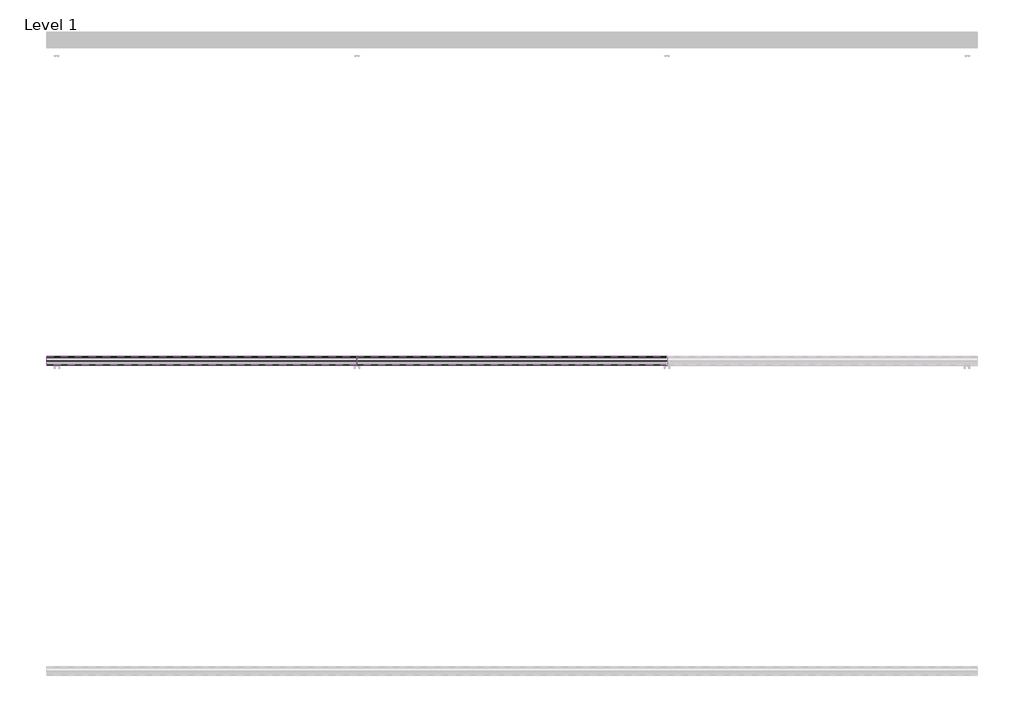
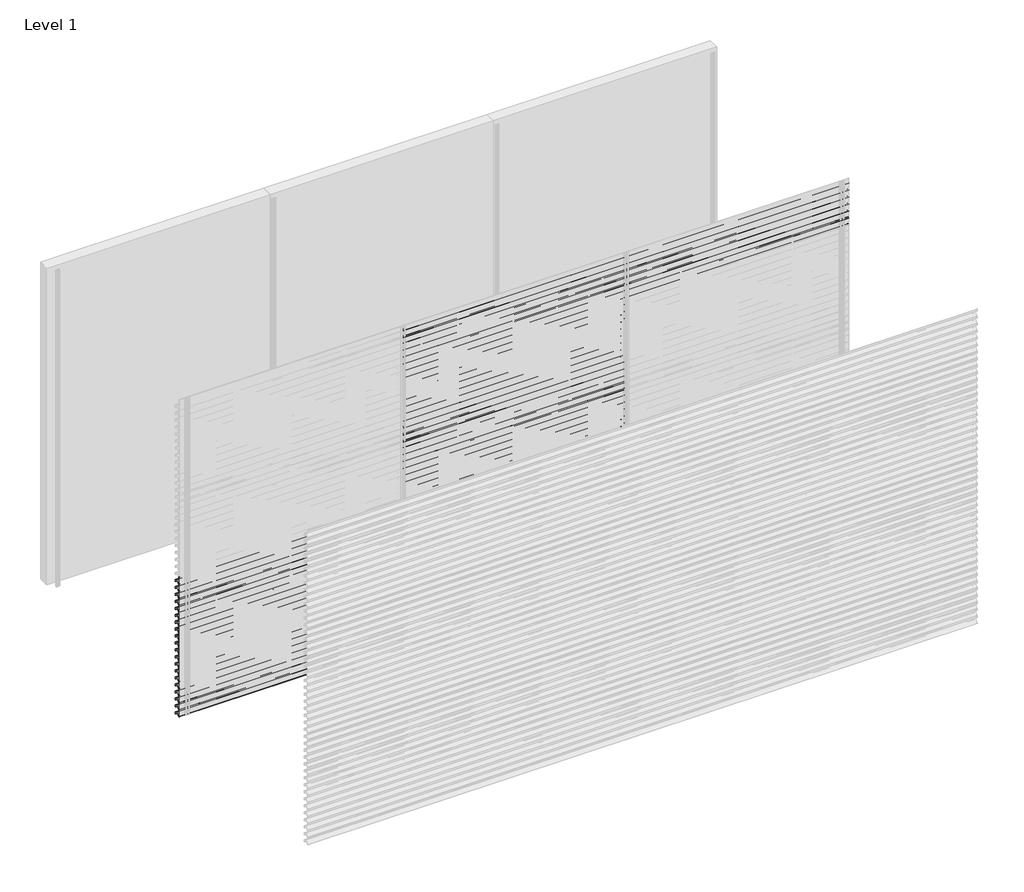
# One storey, part 24 of 27: 71 proxies.
"""IFC4 building model written with IfcOpenShell, lengths in millimetres."""

from ifc_helpers import new_model, si_unit, frame, origin, place, context, project, spatial, polyline, outline, extrude, element, save

model = new_model("IFC4")

# Units and contexts
model_context = context("Model", 3, world=origin())
ifc_project = project(units=[si_unit("LENGTHUNIT", "METRE", prefix="MILLI")], contexts=[model_context])

# Site, building, storey
site = spatial("IfcSite", under=ifc_project)
building = spatial("IfcBuilding", under=site)
storey = spatial("IfcBuildingStorey", under=building, Name="Level 1", Elevation=0.0)

# Proxies
placement = place(None, origin())
element("IfcBuildingElementProxy", 1, Name="Wall Sweeps", at=placement, inside=storey, context=model_context, shape_type="SweptSolid", body=[
    extrude(outline(polyline([(-5943.0, 1263.2), (-5943.0, 1243.5), (-5944.25, 1244.5866084), (-5944.25, 1262.4872415), (-5963.0322086, 1275.6010889), (-5995.1332975, 1243.5), (-5996.0525363, 1244.4192388), (-5964.1148087, 1276.3569665), (-5998.0, 1300.0158044), (-5998.0, 1320.0), (-5996.75, 1320.0), (-5996.75, 1300.7285629), (-5943.0, 1263.2)])), frame((0.0, 0.0, 0.0), z_axis=(1.0, 0.0, 0.0), x_axis=(0.0, 1.0, 0.0)), (0.0, 0.0, 1.0), 2000.0),
])
element("IfcBuildingElementProxy", 2, Name="Wall Sweeps", at=placement, inside=storey, context=model_context, shape_type="SweptSolid", body=[
    extrude(outline(polyline([(-5943.0, 1197.2), (-5943.0, 1177.5), (-5944.25, 1178.5866084), (-5944.25, 1196.4872415), (-5963.0322086, 1209.6010889), (-5995.1332975, 1177.5), (-5996.0525363, 1178.4192388), (-5964.1148087, 1210.3569665), (-5998.0, 1234.0158044), (-5998.0, 1254.0), (-5996.75, 1254.0), (-5996.75, 1234.7285629), (-5943.0, 1197.2)])), frame((0.0, 0.0, 0.0), z_axis=(1.0, 0.0, 0.0), x_axis=(0.0, 1.0, 0.0)), (0.0, 0.0, 1.0), 2000.0),
])
element("IfcBuildingElementProxy", 3, Name="Wall Sweeps", at=placement, inside=storey, context=model_context, shape_type="SweptSolid", body=[
    extrude(outline(polyline([(-5943.0, 1131.2), (-5943.0, 1111.5), (-5944.25, 1112.5866084), (-5944.25, 1130.4872415), (-5963.0322086, 1143.6010889), (-5995.1332975, 1111.5), (-5996.0525363, 1112.4192388), (-5964.1148087, 1144.3569665), (-5998.0, 1168.0158044), (-5998.0, 1188.0), (-5996.75, 1188.0), (-5996.75, 1168.7285629), (-5943.0, 1131.2)])), frame((0.0, 0.0, 0.0), z_axis=(1.0, 0.0, 0.0), x_axis=(0.0, 1.0, 0.0)), (0.0, 0.0, 1.0), 2000.0),
])
element("IfcBuildingElementProxy", 4, Name="Wall Sweeps", at=placement, inside=storey, context=model_context, shape_type="SweptSolid", body=[
    extrude(outline(polyline([(-5943.0, 1065.2), (-5943.0, 1045.5), (-5944.25, 1046.5866084), (-5944.25, 1064.4872415), (-5963.0322086, 1077.6010889), (-5995.1332975, 1045.5), (-5996.0525363, 1046.4192388), (-5964.1148087, 1078.3569665), (-5998.0, 1102.0158044), (-5998.0, 1122.0), (-5996.75, 1122.0), (-5996.75, 1102.7285629), (-5943.0, 1065.2)])), frame((0.0, 0.0, 0.0), z_axis=(1.0, 0.0, 0.0), x_axis=(0.0, 1.0, 0.0)), (0.0, 0.0, 1.0), 2000.0),
])
element("IfcBuildingElementProxy", 5, Name="Wall Sweeps", at=placement, inside=storey, context=model_context, shape_type="SweptSolid", body=[
    extrude(outline(polyline([(-5943.0, 999.2), (-5943.0, 979.5), (-5944.25, 980.5866084), (-5944.25, 998.4872415), (-5963.0322086, 1011.6010889), (-5995.1332975, 979.5), (-5996.0525363, 980.4192388), (-5964.1148087, 1012.3569665), (-5998.0, 1036.0158044), (-5998.0, 1056.0), (-5996.75, 1056.0), (-5996.75, 1036.7285629), (-5943.0, 999.2)])), frame((0.0, 0.0, 0.0), z_axis=(1.0, 0.0, 0.0), x_axis=(0.0, 1.0, 0.0)), (0.0, 0.0, 1.0), 2000.0),
])
element("IfcBuildingElementProxy", 6, Name="Wall Sweeps", at=placement, inside=storey, context=model_context, shape_type="SweptSolid", body=[
    extrude(outline(polyline([(-5943.0, 933.2), (-5943.0, 913.5), (-5944.25, 914.5866084), (-5944.25, 932.4872415), (-5963.0322086, 945.6010889), (-5995.1332975, 913.5), (-5996.0525363, 914.4192388), (-5964.1148087, 946.3569665), (-5998.0, 970.0158044), (-5998.0, 990.0), (-5996.75, 990.0), (-5996.75, 970.7285629), (-5943.0, 933.2)])), frame((0.0, 0.0, 0.0), z_axis=(1.0, 0.0, 0.0), x_axis=(0.0, 1.0, 0.0)), (0.0, 0.0, 1.0), 2000.0),
])
element("IfcBuildingElementProxy", 7, Name="Wall Sweeps", at=placement, inside=storey, context=model_context, shape_type="SweptSolid", body=[
    extrude(outline(polyline([(-5943.0, 867.2), (-5943.0, 847.5), (-5944.25, 848.5866084), (-5944.25, 866.4872415), (-5963.0322086, 879.6010889), (-5995.1332975, 847.5), (-5996.0525363, 848.4192388), (-5964.1148087, 880.3569665), (-5998.0, 904.0158044), (-5998.0, 924.0), (-5996.75, 924.0), (-5996.75, 904.7285629), (-5943.0, 867.2)])), frame((0.0, 0.0, 0.0), z_axis=(1.0, 0.0, 0.0), x_axis=(0.0, 1.0, 0.0)), (0.0, 0.0, 1.0), 2000.0),
])
element("IfcBuildingElementProxy", 8, Name="Wall Sweeps", at=placement, inside=storey, context=model_context, shape_type="SweptSolid", body=[
    extrude(outline(polyline([(-5943.0, 801.2), (-5943.0, 781.5), (-5944.25, 782.5866084), (-5944.25, 800.4872415), (-5963.0322086, 813.6010889), (-5995.1332975, 781.5), (-5996.0525363, 782.4192388), (-5964.1148087, 814.3569665), (-5998.0, 838.0158044), (-5998.0, 858.0), (-5996.75, 858.0), (-5996.75, 838.7285629), (-5943.0, 801.2)])), frame((0.0, 0.0, 0.0), z_axis=(1.0, 0.0, 0.0), x_axis=(0.0, 1.0, 0.0)), (0.0, 0.0, 1.0), 2000.0),
])
element("IfcBuildingElementProxy", 9, Name="Wall Sweeps", at=placement, inside=storey, context=model_context, shape_type="SweptSolid", body=[
    extrude(outline(polyline([(-5943.0, 735.2), (-5943.0, 715.5), (-5944.25, 716.5866084), (-5944.25, 734.4872415), (-5963.0322086, 747.6010889), (-5995.1332975, 715.5), (-5996.0525363, 716.4192388), (-5964.1148087, 748.3569665), (-5998.0, 772.0158044), (-5998.0, 792.0), (-5996.75, 792.0), (-5996.75, 772.7285629), (-5943.0, 735.2)])), frame((0.0, 0.0, 0.0), z_axis=(1.0, 0.0, 0.0), x_axis=(0.0, 1.0, 0.0)), (0.0, 0.0, 1.0), 2000.0),
])
element("IfcBuildingElementProxy", 10, Name="Wall Sweeps", at=placement, inside=storey, context=model_context, shape_type="SweptSolid", body=[
    extrude(outline(polyline([(-5943.0, 669.2), (-5943.0, 649.5), (-5944.25, 650.5866084), (-5944.25, 668.4872415), (-5963.0322086, 681.6010889), (-5995.1332975, 649.5), (-5996.0525363, 650.4192388), (-5964.1148087, 682.3569665), (-5998.0, 706.0158044), (-5998.0, 726.0), (-5996.75, 726.0), (-5996.75, 706.7285629), (-5943.0, 669.2)])), frame((0.0, 0.0, 0.0), z_axis=(1.0, 0.0, 0.0), x_axis=(0.0, 1.0, 0.0)), (0.0, 0.0, 1.0), 2000.0),
])
element("IfcBuildingElementProxy", 11, Name="Wall Sweeps", at=placement, inside=storey, context=model_context, shape_type="SweptSolid", body=[
    extrude(outline(polyline([(-5943.0, 603.2), (-5943.0, 583.5), (-5944.25, 584.5866084), (-5944.25, 602.4872415), (-5963.0322086, 615.6010889), (-5995.1332975, 583.5), (-5996.0525363, 584.4192388), (-5964.1148087, 616.3569665), (-5998.0, 640.0158044), (-5998.0, 660.0), (-5996.75, 660.0), (-5996.75, 640.7285629), (-5943.0, 603.2)])), frame((0.0, 0.0, 0.0), z_axis=(1.0, 0.0, 0.0), x_axis=(0.0, 1.0, 0.0)), (0.0, 0.0, 1.0), 2000.0),
])
element("IfcBuildingElementProxy", 12, Name="Wall Sweeps", at=placement, inside=storey, context=model_context, shape_type="SweptSolid", body=[
    extrude(outline(polyline([(-5943.0, 537.2), (-5943.0, 517.5), (-5944.25, 518.5866084), (-5944.25, 536.4872415), (-5963.0322086, 549.6010889), (-5995.1332975, 517.5), (-5996.0525363, 518.4192388), (-5964.1148087, 550.3569665), (-5998.0, 574.0158044), (-5998.0, 594.0), (-5996.75, 594.0), (-5996.75, 574.7285629), (-5943.0, 537.2)])), frame((0.0, 0.0, 0.0), z_axis=(1.0, 0.0, 0.0), x_axis=(0.0, 1.0, 0.0)), (0.0, 0.0, 1.0), 2000.0),
])
element("IfcBuildingElementProxy", 13, Name="Wall Sweeps", at=placement, inside=storey, context=model_context, shape_type="SweptSolid", body=[
    extrude(outline(polyline([(-5943.0, 471.2), (-5943.0, 451.5), (-5944.25, 452.5866084), (-5944.25, 470.4872415), (-5963.0322086, 483.6010889), (-5995.1332975, 451.5), (-5996.0525363, 452.4192388), (-5964.1148087, 484.3569665), (-5998.0, 508.0158044), (-5998.0, 528.0), (-5996.75, 528.0), (-5996.75, 508.7285629), (-5943.0, 471.2)])), frame((0.0, 0.0, 0.0), z_axis=(1.0, 0.0, 0.0), x_axis=(0.0, 1.0, 0.0)), (0.0, 0.0, 1.0), 2000.0),
])
element("IfcBuildingElementProxy", 14, Name="Wall Sweeps", at=placement, inside=storey, context=model_context, shape_type="SweptSolid", body=[
    extrude(outline(polyline([(-5943.0, 405.2), (-5943.0, 385.5), (-5944.25, 386.5866084), (-5944.25, 404.4872415), (-5963.0322086, 417.6010889), (-5995.1332975, 385.5), (-5996.0525363, 386.4192388), (-5964.1148087, 418.3569665), (-5998.0, 442.0158044), (-5998.0, 462.0), (-5996.75, 462.0), (-5996.75, 442.7285629), (-5943.0, 405.2)])), frame((0.0, 0.0, 0.0), z_axis=(1.0, 0.0, 0.0), x_axis=(0.0, 1.0, 0.0)), (0.0, 0.0, 1.0), 2000.0),
])
element("IfcBuildingElementProxy", 15, Name="Wall Sweeps", at=placement, inside=storey, context=model_context, shape_type="SweptSolid", body=[
    extrude(outline(polyline([(-5943.0, 339.2), (-5943.0, 319.5), (-5944.25, 320.5866084), (-5944.25, 338.4872415), (-5963.0322086, 351.6010889), (-5995.1332975, 319.5), (-5996.0525363, 320.4192388), (-5964.1148087, 352.3569665), (-5998.0, 376.0158044), (-5998.0, 396.0), (-5996.75, 396.0), (-5996.75, 376.7285629), (-5943.0, 339.2)])), frame((0.0, 0.0, 0.0), z_axis=(1.0, 0.0, 0.0), x_axis=(0.0, 1.0, 0.0)), (0.0, 0.0, 1.0), 2000.0),
])
element("IfcBuildingElementProxy", 16, Name="Wall Sweeps", at=placement, inside=storey, context=model_context, shape_type="SweptSolid", body=[
    extrude(outline(polyline([(-5943.0, 273.2), (-5943.0, 253.5), (-5944.25, 254.5866084), (-5944.25, 272.4872415), (-5963.0322086, 285.6010889), (-5995.1332975, 253.5), (-5996.0525363, 254.4192388), (-5964.1148087, 286.3569665), (-5998.0, 310.0158044), (-5998.0, 330.0), (-5996.75, 330.0), (-5996.75, 310.7285629), (-5943.0, 273.2)])), frame((0.0, 0.0, 0.0), z_axis=(1.0, 0.0, 0.0), x_axis=(0.0, 1.0, 0.0)), (0.0, 0.0, 1.0), 2000.0),
])
element("IfcBuildingElementProxy", 17, Name="Wall Sweeps", at=placement, inside=storey, context=model_context, shape_type="SweptSolid", body=[
    extrude(outline(polyline([(-5943.0, 207.2), (-5943.0, 187.5), (-5944.25, 188.5866084), (-5944.25, 206.4872415), (-5963.0322086, 219.6010889), (-5995.1332975, 187.5), (-5996.0525363, 188.4192388), (-5964.1148087, 220.3569665), (-5998.0, 244.0158044), (-5998.0, 264.0), (-5996.75, 264.0), (-5996.75, 244.7285629), (-5943.0, 207.2)])), frame((0.0, 0.0, 0.0), z_axis=(1.0, 0.0, 0.0), x_axis=(0.0, 1.0, 0.0)), (0.0, 0.0, 1.0), 2000.0),
])
element("IfcBuildingElementProxy", 18, Name="Wall Sweeps", at=placement, inside=storey, context=model_context, shape_type="SweptSolid", body=[
    extrude(outline(polyline([(-5943.0, 141.2), (-5943.0, 121.5), (-5944.25, 122.5866084), (-5944.25, 140.4872415), (-5963.0322086, 153.6010889), (-5995.1332975, 121.5), (-5996.0525363, 122.4192388), (-5964.1148087, 154.3569665), (-5998.0, 178.0158044), (-5998.0, 198.0), (-5996.75, 198.0), (-5996.75, 178.7285629), (-5943.0, 141.2)])), frame((0.0, 0.0, 0.0), z_axis=(1.0, 0.0, 0.0), x_axis=(0.0, 1.0, 0.0)), (0.0, 0.0, 1.0), 2000.0),
])
element("IfcBuildingElementProxy", 19, Name="Wall Sweeps", at=placement, inside=storey, context=model_context, shape_type="SweptSolid", body=[
    extrude(outline(polyline([(-5943.0, 75.2), (-5943.0, 55.5), (-5944.25, 56.5866084), (-5944.25, 74.4872415), (-5963.0322086, 87.6010889), (-5995.1332975, 55.5), (-5996.0525363, 56.4192388), (-5964.1148087, 88.3569665), (-5998.0, 112.0158044), (-5998.0, 132.0), (-5996.75, 132.0), (-5996.75, 112.7285629), (-5943.0, 75.2)])), frame((0.0, 0.0, 0.0), z_axis=(1.0, 0.0, 0.0), x_axis=(0.0, 1.0, 0.0)), (0.0, 0.0, 1.0), 2000.0),
])
element("IfcBuildingElementProxy", 20, Name="Wall Sweeps", at=placement, inside=storey, context=model_context, shape_type="SweptSolid", body=[
    extrude(outline(polyline([(-5943.0, 9.2), (-5943.0, -10.5), (-5944.25, -9.4133916), (-5944.25, 8.4872415), (-5963.0322086, 21.6010889), (-5995.1332975, -10.5), (-5996.0525363, -9.5807612), (-5964.1148087, 22.3569665), (-5998.0, 46.0158044), (-5998.0, 66.0), (-5996.75, 66.0), (-5996.75, 46.7285629), (-5943.0, 9.2)])), frame((0.0, 0.0, 0.0), z_axis=(1.0, 0.0, 0.0), x_axis=(0.0, 1.0, 0.0)), (0.0, 0.0, 1.0), 2000.0),
])
element("IfcBuildingElementProxy", 21, Name="Wall Sweeps", at=placement, inside=storey, context=model_context, shape_type="SweptSolid", body=[
    extrude(outline(polyline([(-5943.0, 2913.2), (-5943.0, 2893.5), (-5944.25, 2894.5866084), (-5944.25, 2912.4872415), (-5963.0322086, 2925.6010889), (-5995.1332975, 2893.5), (-5996.0525363, 2894.4192388), (-5964.1148087, 2926.3569665), (-5998.0, 2950.0158044), (-5998.0, 2970.0), (-5996.75, 2970.0), (-5996.75, 2950.7285629), (-5943.0, 2913.2)])), frame((2000.0, 0.0, 0.0), z_axis=(1.0, 0.0, 0.0), x_axis=(0.0, 1.0, 0.0)), (0.0, 0.0, 1.0), 2000.0),
])
element("IfcBuildingElementProxy", 22, Name="Wall Sweeps", at=placement, inside=storey, context=model_context, shape_type="SweptSolid", body=[
    extrude(outline(polyline([(-5943.0, 2847.2), (-5943.0, 2827.5), (-5944.25, 2828.5866084), (-5944.25, 2846.4872415), (-5963.0322086, 2859.6010889), (-5995.1332975, 2827.5), (-5996.0525363, 2828.4192388), (-5964.1148087, 2860.3569665), (-5998.0, 2884.0158044), (-5998.0, 2904.0), (-5996.75, 2904.0), (-5996.75, 2884.7285629), (-5943.0, 2847.2)])), frame((2000.0, 0.0, 0.0), z_axis=(1.0, 0.0, 0.0), x_axis=(0.0, 1.0, 0.0)), (0.0, 0.0, 1.0), 2000.0),
])
element("IfcBuildingElementProxy", 23, Name="Wall Sweeps", at=placement, inside=storey, context=model_context, shape_type="SweptSolid", body=[
    extrude(outline(polyline([(-5943.0, 2781.2), (-5943.0, 2761.5), (-5944.25, 2762.5866084), (-5944.25, 2780.4872415), (-5963.0322086, 2793.6010889), (-5995.1332975, 2761.5), (-5996.0525363, 2762.4192388), (-5964.1148087, 2794.3569665), (-5998.0, 2818.0158044), (-5998.0, 2838.0), (-5996.75, 2838.0), (-5996.75, 2818.7285629), (-5943.0, 2781.2)])), frame((2000.0, 0.0, 0.0), z_axis=(1.0, 0.0, 0.0), x_axis=(0.0, 1.0, 0.0)), (0.0, 0.0, 1.0), 2000.0),
])
element("IfcBuildingElementProxy", 24, Name="Wall Sweeps", at=placement, inside=storey, context=model_context, shape_type="SweptSolid", body=[
    extrude(outline(polyline([(-5943.0, 2715.2), (-5943.0, 2695.5), (-5944.25, 2696.5866084), (-5944.25, 2714.4872415), (-5963.0322086, 2727.6010889), (-5995.1332975, 2695.5), (-5996.0525363, 2696.4192388), (-5964.1148087, 2728.3569665), (-5998.0, 2752.0158044), (-5998.0, 2772.0), (-5996.75, 2772.0), (-5996.75, 2752.7285629), (-5943.0, 2715.2)])), frame((2000.0, 0.0, 0.0), z_axis=(1.0, 0.0, 0.0), x_axis=(0.0, 1.0, 0.0)), (0.0, 0.0, 1.0), 2000.0),
])
element("IfcBuildingElementProxy", 25, Name="Wall Sweeps", at=placement, inside=storey, context=model_context, shape_type="SweptSolid", body=[
    extrude(outline(polyline([(-5943.0, 2649.2), (-5943.0, 2629.5), (-5944.25, 2630.5866084), (-5944.25, 2648.4872415), (-5963.0322086, 2661.6010889), (-5995.1332975, 2629.5), (-5996.0525363, 2630.4192388), (-5964.1148087, 2662.3569665), (-5998.0, 2686.0158044), (-5998.0, 2706.0), (-5996.75, 2706.0), (-5996.75, 2686.7285629), (-5943.0, 2649.2)])), frame((2000.0, 0.0, 0.0), z_axis=(1.0, 0.0, 0.0), x_axis=(0.0, 1.0, 0.0)), (0.0, 0.0, 1.0), 2000.0),
])
element("IfcBuildingElementProxy", 26, Name="Wall Sweeps", at=placement, inside=storey, context=model_context, shape_type="SweptSolid", body=[
    extrude(outline(polyline([(-5943.0, 2583.2), (-5943.0, 2563.5), (-5944.25, 2564.5866084), (-5944.25, 2582.4872415), (-5963.0322086, 2595.6010889), (-5995.1332975, 2563.5), (-5996.0525363, 2564.4192388), (-5964.1148087, 2596.3569665), (-5998.0, 2620.0158044), (-5998.0, 2640.0), (-5996.75, 2640.0), (-5996.75, 2620.7285629), (-5943.0, 2583.2)])), frame((2000.0, 0.0, 0.0), z_axis=(1.0, 0.0, 0.0), x_axis=(0.0, 1.0, 0.0)), (0.0, 0.0, 1.0), 2000.0),
])
element("IfcBuildingElementProxy", 27, Name="Wall Sweeps", at=placement, inside=storey, context=model_context, shape_type="SweptSolid", body=[
    extrude(outline(polyline([(-5943.0, 2517.2), (-5943.0, 2497.5), (-5944.25, 2498.5866084), (-5944.25, 2516.4872415), (-5963.0322086, 2529.6010889), (-5995.1332975, 2497.5), (-5996.0525363, 2498.4192388), (-5964.1148087, 2530.3569665), (-5998.0, 2554.0158044), (-5998.0, 2574.0), (-5996.75, 2574.0), (-5996.75, 2554.7285629), (-5943.0, 2517.2)])), frame((2000.0, 0.0, 0.0), z_axis=(1.0, 0.0, 0.0), x_axis=(0.0, 1.0, 0.0)), (0.0, 0.0, 1.0), 2000.0),
])
element("IfcBuildingElementProxy", 28, Name="Wall Sweeps", at=placement, inside=storey, context=model_context, shape_type="SweptSolid", body=[
    extrude(outline(polyline([(-5943.0, 2451.2), (-5943.0, 2431.5), (-5944.25, 2432.5866084), (-5944.25, 2450.4872415), (-5963.0322086, 2463.6010889), (-5995.1332975, 2431.5), (-5996.0525363, 2432.4192388), (-5964.1148087, 2464.3569665), (-5998.0, 2488.0158044), (-5998.0, 2508.0), (-5996.75, 2508.0), (-5996.75, 2488.7285629), (-5943.0, 2451.2)])), frame((2000.0, 0.0, 0.0), z_axis=(1.0, 0.0, 0.0), x_axis=(0.0, 1.0, 0.0)), (0.0, 0.0, 1.0), 2000.0),
])
element("IfcBuildingElementProxy", 29, Name="Wall Sweeps", at=placement, inside=storey, context=model_context, shape_type="SweptSolid", body=[
    extrude(outline(polyline([(-5943.0, 2385.2), (-5943.0, 2365.5), (-5944.25, 2366.5866084), (-5944.25, 2384.4872415), (-5963.0322086, 2397.6010889), (-5995.1332975, 2365.5), (-5996.0525363, 2366.4192388), (-5964.1148087, 2398.3569665), (-5998.0, 2422.0158044), (-5998.0, 2442.0), (-5996.75, 2442.0), (-5996.75, 2422.7285629), (-5943.0, 2385.2)])), frame((2000.0, 0.0, 0.0), z_axis=(1.0, 0.0, 0.0), x_axis=(0.0, 1.0, 0.0)), (0.0, 0.0, 1.0), 2000.0),
])
element("IfcBuildingElementProxy", 30, Name="Wall Sweeps", at=placement, inside=storey, context=model_context, shape_type="SweptSolid", body=[
    extrude(outline(polyline([(-5943.0, 2319.2), (-5943.0, 2299.5), (-5944.25, 2300.5866084), (-5944.25, 2318.4872415), (-5963.0322086, 2331.6010889), (-5995.1332975, 2299.5), (-5996.0525363, 2300.4192388), (-5964.1148087, 2332.3569665), (-5998.0, 2356.0158044), (-5998.0, 2376.0), (-5996.75, 2376.0), (-5996.75, 2356.7285629), (-5943.0, 2319.2)])), frame((2000.0, 0.0, 0.0), z_axis=(1.0, 0.0, 0.0), x_axis=(0.0, 1.0, 0.0)), (0.0, 0.0, 1.0), 2000.0),
])
element("IfcBuildingElementProxy", 31, Name="Wall Sweeps", at=placement, inside=storey, context=model_context, shape_type="SweptSolid", body=[
    extrude(outline(polyline([(-5943.0, 2253.2), (-5943.0, 2233.5), (-5944.25, 2234.5866084), (-5944.25, 2252.4872415), (-5963.0322086, 2265.6010889), (-5995.1332975, 2233.5), (-5996.0525363, 2234.4192388), (-5964.1148087, 2266.3569665), (-5998.0, 2290.0158044), (-5998.0, 2310.0), (-5996.75, 2310.0), (-5996.75, 2290.7285629), (-5943.0, 2253.2)])), frame((2000.0, 0.0, 0.0), z_axis=(1.0, 0.0, 0.0), x_axis=(0.0, 1.0, 0.0)), (0.0, 0.0, 1.0), 2000.0),
])
element("IfcBuildingElementProxy", 32, Name="Wall Sweeps", at=placement, inside=storey, context=model_context, shape_type="SweptSolid", body=[
    extrude(outline(polyline([(-5943.0, 2187.2), (-5943.0, 2167.5), (-5944.25, 2168.5866084), (-5944.25, 2186.4872415), (-5963.0322086, 2199.6010889), (-5995.1332975, 2167.5), (-5996.0525363, 2168.4192388), (-5964.1148087, 2200.3569665), (-5998.0, 2224.0158044), (-5998.0, 2244.0), (-5996.75, 2244.0), (-5996.75, 2224.7285629), (-5943.0, 2187.2)])), frame((2000.0, 0.0, 0.0), z_axis=(1.0, 0.0, 0.0), x_axis=(0.0, 1.0, 0.0)), (0.0, 0.0, 1.0), 2000.0),
])
element("IfcBuildingElementProxy", 33, Name="Wall Sweeps", at=placement, inside=storey, context=model_context, shape_type="SweptSolid", body=[
    extrude(outline(polyline([(-5943.0, 2121.2), (-5943.0, 2101.5), (-5944.25, 2102.5866084), (-5944.25, 2120.4872415), (-5963.0322086, 2133.6010889), (-5995.1332975, 2101.5), (-5996.0525363, 2102.4192388), (-5964.1148087, 2134.3569665), (-5998.0, 2158.0158044), (-5998.0, 2178.0), (-5996.75, 2178.0), (-5996.75, 2158.7285629), (-5943.0, 2121.2)])), frame((2000.0, 0.0, 0.0), z_axis=(1.0, 0.0, 0.0), x_axis=(0.0, 1.0, 0.0)), (0.0, 0.0, 1.0), 2000.0),
])
element("IfcBuildingElementProxy", 34, Name="Wall Sweeps", at=placement, inside=storey, context=model_context, shape_type="SweptSolid", body=[
    extrude(outline(polyline([(-5943.0, 2055.2), (-5943.0, 2035.5), (-5944.25, 2036.5866084), (-5944.25, 2054.4872415), (-5963.0322086, 2067.6010889), (-5995.1332975, 2035.5), (-5996.0525363, 2036.4192388), (-5964.1148087, 2068.3569665), (-5998.0, 2092.0158044), (-5998.0, 2112.0), (-5996.75, 2112.0), (-5996.75, 2092.7285629), (-5943.0, 2055.2)])), frame((2000.0, 0.0, 0.0), z_axis=(1.0, 0.0, 0.0), x_axis=(0.0, 1.0, 0.0)), (0.0, 0.0, 1.0), 2000.0),
])
element("IfcBuildingElementProxy", 35, Name="Wall Sweeps", at=placement, inside=storey, context=model_context, shape_type="SweptSolid", body=[
    extrude(outline(polyline([(-5943.0, 1989.2), (-5943.0, 1969.5), (-5944.25, 1970.5866084), (-5944.25, 1988.4872415), (-5963.0322086, 2001.6010889), (-5995.1332975, 1969.5), (-5996.0525363, 1970.4192388), (-5964.1148087, 2002.3569665), (-5998.0, 2026.0158044), (-5998.0, 2046.0), (-5996.75, 2046.0), (-5996.75, 2026.7285629), (-5943.0, 1989.2)])), frame((2000.0, 0.0, 0.0), z_axis=(1.0, 0.0, 0.0), x_axis=(0.0, 1.0, 0.0)), (0.0, 0.0, 1.0), 2000.0),
])
element("IfcBuildingElementProxy", 36, Name="Wall Sweeps", at=placement, inside=storey, context=model_context, shape_type="SweptSolid", body=[
    extrude(outline(polyline([(-5943.0, 1923.2), (-5943.0, 1903.5), (-5944.25, 1904.5866084), (-5944.25, 1922.4872415), (-5963.0322086, 1935.6010889), (-5995.1332975, 1903.5), (-5996.0525363, 1904.4192388), (-5964.1148087, 1936.3569665), (-5998.0, 1960.0158044), (-5998.0, 1980.0), (-5996.75, 1980.0), (-5996.75, 1960.7285629), (-5943.0, 1923.2)])), frame((2000.0, 0.0, 0.0), z_axis=(1.0, 0.0, 0.0), x_axis=(0.0, 1.0, 0.0)), (0.0, 0.0, 1.0), 2000.0),
])
element("IfcBuildingElementProxy", 37, Name="Wall Sweeps", at=placement, inside=storey, context=model_context, shape_type="SweptSolid", body=[
    extrude(outline(polyline([(-5943.0, 1857.2), (-5943.0, 1837.5), (-5944.25, 1838.5866084), (-5944.25, 1856.4872415), (-5963.0322086, 1869.6010889), (-5995.1332975, 1837.5), (-5996.0525363, 1838.4192388), (-5964.1148087, 1870.3569665), (-5998.0, 1894.0158044), (-5998.0, 1914.0), (-5996.75, 1914.0), (-5996.75, 1894.7285629), (-5943.0, 1857.2)])), frame((2000.0, 0.0, 0.0), z_axis=(1.0, 0.0, 0.0), x_axis=(0.0, 1.0, 0.0)), (0.0, 0.0, 1.0), 2000.0),
])
element("IfcBuildingElementProxy", 38, Name="Wall Sweeps", at=placement, inside=storey, context=model_context, shape_type="SweptSolid", body=[
    extrude(outline(polyline([(-5943.0, 1791.2), (-5943.0, 1771.5), (-5944.25, 1772.5866084), (-5944.25, 1790.4872415), (-5963.0322086, 1803.6010889), (-5995.1332975, 1771.5), (-5996.0525363, 1772.4192388), (-5964.1148087, 1804.3569665), (-5998.0, 1828.0158044), (-5998.0, 1848.0), (-5996.75, 1848.0), (-5996.75, 1828.7285629), (-5943.0, 1791.2)])), frame((2000.0, 0.0, 0.0), z_axis=(1.0, 0.0, 0.0), x_axis=(0.0, 1.0, 0.0)), (0.0, 0.0, 1.0), 2000.0),
])
element("IfcBuildingElementProxy", 39, Name="Wall Sweeps", at=placement, inside=storey, context=model_context, shape_type="SweptSolid", body=[
    extrude(outline(polyline([(-5943.0, 1725.2), (-5943.0, 1705.5), (-5944.25, 1706.5866084), (-5944.25, 1724.4872415), (-5963.0322086, 1737.6010889), (-5995.1332975, 1705.5), (-5996.0525363, 1706.4192388), (-5964.1148087, 1738.3569665), (-5998.0, 1762.0158044), (-5998.0, 1782.0), (-5996.75, 1782.0), (-5996.75, 1762.7285629), (-5943.0, 1725.2)])), frame((2000.0, 0.0, 0.0), z_axis=(1.0, 0.0, 0.0), x_axis=(0.0, 1.0, 0.0)), (0.0, 0.0, 1.0), 2000.0),
])
element("IfcBuildingElementProxy", 40, Name="Wall Sweeps", at=placement, inside=storey, context=model_context, shape_type="SweptSolid", body=[
    extrude(outline(polyline([(-5943.0, 1659.2), (-5943.0, 1639.5), (-5944.25, 1640.5866084), (-5944.25, 1658.4872415), (-5963.0322086, 1671.6010889), (-5995.1332975, 1639.5), (-5996.0525363, 1640.4192388), (-5964.1148087, 1672.3569665), (-5998.0, 1696.0158044), (-5998.0, 1716.0), (-5996.75, 1716.0), (-5996.75, 1696.7285629), (-5943.0, 1659.2)])), frame((2000.0, 0.0, 0.0), z_axis=(1.0, 0.0, 0.0), x_axis=(0.0, 1.0, 0.0)), (0.0, 0.0, 1.0), 2000.0),
])
element("IfcBuildingElementProxy", 41, Name="Wall Sweeps", at=placement, inside=storey, context=model_context, shape_type="SweptSolid", body=[
    extrude(outline(polyline([(-5943.0, 1593.2), (-5943.0, 1573.5), (-5944.25, 1574.5866084), (-5944.25, 1592.4872415), (-5963.0322086, 1605.6010889), (-5995.1332975, 1573.5), (-5996.0525363, 1574.4192388), (-5964.1148087, 1606.3569665), (-5998.0, 1630.0158044), (-5998.0, 1650.0), (-5996.75, 1650.0), (-5996.75, 1630.7285629), (-5943.0, 1593.2)])), frame((2000.0, 0.0, 0.0), z_axis=(1.0, 0.0, 0.0), x_axis=(0.0, 1.0, 0.0)), (0.0, 0.0, 1.0), 2000.0),
])
element("IfcBuildingElementProxy", 42, Name="Wall Sweeps", at=placement, inside=storey, context=model_context, shape_type="SweptSolid", body=[
    extrude(outline(polyline([(-5943.0, 1527.2), (-5943.0, 1507.5), (-5944.25, 1508.5866084), (-5944.25, 1526.4872415), (-5963.0322086, 1539.6010889), (-5995.1332975, 1507.5), (-5996.0525363, 1508.4192388), (-5964.1148087, 1540.3569665), (-5998.0, 1564.0158044), (-5998.0, 1584.0), (-5996.75, 1584.0), (-5996.75, 1564.7285629), (-5943.0, 1527.2)])), frame((2000.0, 0.0, 0.0), z_axis=(1.0, 0.0, 0.0), x_axis=(0.0, 1.0, 0.0)), (0.0, 0.0, 1.0), 2000.0),
])
element("IfcBuildingElementProxy", 43, Name="Wall Sweeps", at=placement, inside=storey, context=model_context, shape_type="SweptSolid", body=[
    extrude(outline(polyline([(-5943.0, 1461.2), (-5943.0, 1441.5), (-5944.25, 1442.5866084), (-5944.25, 1460.4872415), (-5963.0322086, 1473.6010889), (-5995.1332975, 1441.5), (-5996.0525363, 1442.4192388), (-5964.1148087, 1474.3569665), (-5998.0, 1498.0158044), (-5998.0, 1518.0), (-5996.75, 1518.0), (-5996.75, 1498.7285629), (-5943.0, 1461.2)])), frame((2000.0, 0.0, 0.0), z_axis=(1.0, 0.0, 0.0), x_axis=(0.0, 1.0, 0.0)), (0.0, 0.0, 1.0), 2000.0),
])
element("IfcBuildingElementProxy", 44, Name="Wall Sweeps", at=placement, inside=storey, context=model_context, shape_type="SweptSolid", body=[
    extrude(outline(polyline([(-5943.0, 1395.2), (-5943.0, 1375.5), (-5944.25, 1376.5866084), (-5944.25, 1394.4872415), (-5963.0322086, 1407.6010889), (-5995.1332975, 1375.5), (-5996.0525363, 1376.4192388), (-5964.1148087, 1408.3569665), (-5998.0, 1432.0158044), (-5998.0, 1452.0), (-5996.75, 1452.0), (-5996.75, 1432.7285629), (-5943.0, 1395.2)])), frame((2000.0, 0.0, 0.0), z_axis=(1.0, 0.0, 0.0), x_axis=(0.0, 1.0, 0.0)), (0.0, 0.0, 1.0), 2000.0),
])
element("IfcBuildingElementProxy", 45, Name="Wall Sweeps", at=placement, inside=storey, context=model_context, shape_type="SweptSolid", body=[
    extrude(outline(polyline([(-5943.0, 1329.2), (-5943.0, 1309.5), (-5944.25, 1310.5866084), (-5944.25, 1328.4872415), (-5963.0322086, 1341.6010889), (-5995.1332975, 1309.5), (-5996.0525363, 1310.4192388), (-5964.1148087, 1342.3569665), (-5998.0, 1366.0158044), (-5998.0, 1386.0), (-5996.75, 1386.0), (-5996.75, 1366.7285629), (-5943.0, 1329.2)])), frame((2000.0, 0.0, 0.0), z_axis=(1.0, 0.0, 0.0), x_axis=(0.0, 1.0, 0.0)), (0.0, 0.0, 1.0), 2000.0),
])
element("IfcBuildingElementProxy", 46, Name="Wall Sweeps", at=placement, inside=storey, context=model_context, shape_type="SweptSolid", body=[
    extrude(outline(polyline([(-5943.0, 1263.2), (-5943.0, 1243.5), (-5944.25, 1244.5866084), (-5944.25, 1262.4872415), (-5963.0322086, 1275.6010889), (-5995.1332975, 1243.5), (-5996.0525363, 1244.4192388), (-5964.1148087, 1276.3569665), (-5998.0, 1300.0158044), (-5998.0, 1320.0), (-5996.75, 1320.0), (-5996.75, 1300.7285629), (-5943.0, 1263.2)])), frame((2000.0, 0.0, 0.0), z_axis=(1.0, 0.0, 0.0), x_axis=(0.0, 1.0, 0.0)), (0.0, 0.0, 1.0), 2000.0),
])
element("IfcBuildingElementProxy", 47, Name="Wall Sweeps", at=placement, inside=storey, context=model_context, shape_type="SweptSolid", body=[
    extrude(outline(polyline([(-5943.0, 1197.2), (-5943.0, 1177.5), (-5944.25, 1178.5866084), (-5944.25, 1196.4872415), (-5963.0322086, 1209.6010889), (-5995.1332975, 1177.5), (-5996.0525363, 1178.4192388), (-5964.1148087, 1210.3569665), (-5998.0, 1234.0158044), (-5998.0, 1254.0), (-5996.75, 1254.0), (-5996.75, 1234.7285629), (-5943.0, 1197.2)])), frame((2000.0, 0.0, 0.0), z_axis=(1.0, 0.0, 0.0), x_axis=(0.0, 1.0, 0.0)), (0.0, 0.0, 1.0), 2000.0),
])
element("IfcBuildingElementProxy", 48, Name="Wall Sweeps", at=placement, inside=storey, context=model_context, shape_type="SweptSolid", body=[
    extrude(outline(polyline([(-5943.0, 1131.2), (-5943.0, 1111.5), (-5944.25, 1112.5866084), (-5944.25, 1130.4872415), (-5963.0322086, 1143.6010889), (-5995.1332975, 1111.5), (-5996.0525363, 1112.4192388), (-5964.1148087, 1144.3569665), (-5998.0, 1168.0158044), (-5998.0, 1188.0), (-5996.75, 1188.0), (-5996.75, 1168.7285629), (-5943.0, 1131.2)])), frame((2000.0, 0.0, 0.0), z_axis=(1.0, 0.0, 0.0), x_axis=(0.0, 1.0, 0.0)), (0.0, 0.0, 1.0), 2000.0),
])
element("IfcBuildingElementProxy", 49, Name="Wall Sweeps", at=placement, inside=storey, context=model_context, shape_type="SweptSolid", body=[
    extrude(outline(polyline([(-5943.0, 1065.2), (-5943.0, 1045.5), (-5944.25, 1046.5866084), (-5944.25, 1064.4872415), (-5963.0322086, 1077.6010889), (-5995.1332975, 1045.5), (-5996.0525363, 1046.4192388), (-5964.1148087, 1078.3569665), (-5998.0, 1102.0158044), (-5998.0, 1122.0), (-5996.75, 1122.0), (-5996.75, 1102.7285629), (-5943.0, 1065.2)])), frame((2000.0, 0.0, 0.0), z_axis=(1.0, 0.0, 0.0), x_axis=(0.0, 1.0, 0.0)), (0.0, 0.0, 1.0), 2000.0),
])
element("IfcBuildingElementProxy", 50, Name="Wall Sweeps", at=placement, inside=storey, context=model_context, shape_type="SweptSolid", body=[
    extrude(outline(polyline([(-5943.0, 999.2), (-5943.0, 979.5), (-5944.25, 980.5866084), (-5944.25, 998.4872415), (-5963.0322086, 1011.6010889), (-5995.1332975, 979.5), (-5996.0525363, 980.4192388), (-5964.1148087, 1012.3569665), (-5998.0, 1036.0158044), (-5998.0, 1056.0), (-5996.75, 1056.0), (-5996.75, 1036.7285629), (-5943.0, 999.2)])), frame((2000.0, 0.0, 0.0), z_axis=(1.0, 0.0, 0.0), x_axis=(0.0, 1.0, 0.0)), (0.0, 0.0, 1.0), 2000.0),
])
element("IfcBuildingElementProxy", 51, Name="Wall Sweeps", at=placement, inside=storey, context=model_context, shape_type="SweptSolid", body=[
    extrude(outline(polyline([(-5943.0, 933.2), (-5943.0, 913.5), (-5944.25, 914.5866084), (-5944.25, 932.4872415), (-5963.0322086, 945.6010889), (-5995.1332975, 913.5), (-5996.0525363, 914.4192388), (-5964.1148087, 946.3569665), (-5998.0, 970.0158044), (-5998.0, 990.0), (-5996.75, 990.0), (-5996.75, 970.7285629), (-5943.0, 933.2)])), frame((2000.0, 0.0, 0.0), z_axis=(1.0, 0.0, 0.0), x_axis=(0.0, 1.0, 0.0)), (0.0, 0.0, 1.0), 2000.0),
])
element("IfcBuildingElementProxy", 52, Name="Wall Sweeps", at=placement, inside=storey, context=model_context, shape_type="SweptSolid", body=[
    extrude(outline(polyline([(-5943.0, 867.2), (-5943.0, 847.5), (-5944.25, 848.5866084), (-5944.25, 866.4872415), (-5963.0322086, 879.6010889), (-5995.1332975, 847.5), (-5996.0525363, 848.4192388), (-5964.1148087, 880.3569665), (-5998.0, 904.0158044), (-5998.0, 924.0), (-5996.75, 924.0), (-5996.75, 904.7285629), (-5943.0, 867.2)])), frame((2000.0, 0.0, 0.0), z_axis=(1.0, 0.0, 0.0), x_axis=(0.0, 1.0, 0.0)), (0.0, 0.0, 1.0), 2000.0),
])
element("IfcBuildingElementProxy", 53, Name="Wall Sweeps", at=placement, inside=storey, context=model_context, shape_type="SweptSolid", body=[
    extrude(outline(polyline([(-5943.0, 801.2), (-5943.0, 781.5), (-5944.25, 782.5866084), (-5944.25, 800.4872415), (-5963.0322086, 813.6010889), (-5995.1332975, 781.5), (-5996.0525363, 782.4192388), (-5964.1148087, 814.3569665), (-5998.0, 838.0158044), (-5998.0, 858.0), (-5996.75, 858.0), (-5996.75, 838.7285629), (-5943.0, 801.2)])), frame((2000.0, 0.0, 0.0), z_axis=(1.0, 0.0, 0.0), x_axis=(0.0, 1.0, 0.0)), (0.0, 0.0, 1.0), 2000.0),
])
element("IfcBuildingElementProxy", 54, Name="Wall Sweeps", at=placement, inside=storey, context=model_context, shape_type="SweptSolid", body=[
    extrude(outline(polyline([(-5943.0, 735.2), (-5943.0, 715.5), (-5944.25, 716.5866084), (-5944.25, 734.4872415), (-5963.0322086, 747.6010889), (-5995.1332975, 715.5), (-5996.0525363, 716.4192388), (-5964.1148087, 748.3569665), (-5998.0, 772.0158044), (-5998.0, 792.0), (-5996.75, 792.0), (-5996.75, 772.7285629), (-5943.0, 735.2)])), frame((2000.0, 0.0, 0.0), z_axis=(1.0, 0.0, 0.0), x_axis=(0.0, 1.0, 0.0)), (0.0, 0.0, 1.0), 2000.0),
])
element("IfcBuildingElementProxy", 55, Name="Wall Sweeps", at=placement, inside=storey, context=model_context, shape_type="SweptSolid", body=[
    extrude(outline(polyline([(-5943.0, 669.2), (-5943.0, 649.5), (-5944.25, 650.5866084), (-5944.25, 668.4872415), (-5963.0322086, 681.6010889), (-5995.1332975, 649.5), (-5996.0525363, 650.4192388), (-5964.1148087, 682.3569665), (-5998.0, 706.0158044), (-5998.0, 726.0), (-5996.75, 726.0), (-5996.75, 706.7285629), (-5943.0, 669.2)])), frame((2000.0, 0.0, 0.0), z_axis=(1.0, 0.0, 0.0), x_axis=(0.0, 1.0, 0.0)), (0.0, 0.0, 1.0), 2000.0),
])
element("IfcBuildingElementProxy", 56, Name="Wall Sweeps", at=placement, inside=storey, context=model_context, shape_type="SweptSolid", body=[
    extrude(outline(polyline([(-5943.0, 603.2), (-5943.0, 583.5), (-5944.25, 584.5866084), (-5944.25, 602.4872415), (-5963.0322086, 615.6010889), (-5995.1332975, 583.5), (-5996.0525363, 584.4192388), (-5964.1148087, 616.3569665), (-5998.0, 640.0158044), (-5998.0, 660.0), (-5996.75, 660.0), (-5996.75, 640.7285629), (-5943.0, 603.2)])), frame((2000.0, 0.0, 0.0), z_axis=(1.0, 0.0, 0.0), x_axis=(0.0, 1.0, 0.0)), (0.0, 0.0, 1.0), 2000.0),
])
element("IfcBuildingElementProxy", 57, Name="Wall Sweeps", at=placement, inside=storey, context=model_context, shape_type="SweptSolid", body=[
    extrude(outline(polyline([(-5943.0, 537.2), (-5943.0, 517.5), (-5944.25, 518.5866084), (-5944.25, 536.4872415), (-5963.0322086, 549.6010889), (-5995.1332975, 517.5), (-5996.0525363, 518.4192388), (-5964.1148087, 550.3569665), (-5998.0, 574.0158044), (-5998.0, 594.0), (-5996.75, 594.0), (-5996.75, 574.7285629), (-5943.0, 537.2)])), frame((2000.0, 0.0, 0.0), z_axis=(1.0, 0.0, 0.0), x_axis=(0.0, 1.0, 0.0)), (0.0, 0.0, 1.0), 2000.0),
])
element("IfcBuildingElementProxy", 58, Name="Wall Sweeps", at=placement, inside=storey, context=model_context, shape_type="SweptSolid", body=[
    extrude(outline(polyline([(-5943.0, 471.2), (-5943.0, 451.5), (-5944.25, 452.5866084), (-5944.25, 470.4872415), (-5963.0322086, 483.6010889), (-5995.1332975, 451.5), (-5996.0525363, 452.4192388), (-5964.1148087, 484.3569665), (-5998.0, 508.0158044), (-5998.0, 528.0), (-5996.75, 528.0), (-5996.75, 508.7285629), (-5943.0, 471.2)])), frame((2000.0, 0.0, 0.0), z_axis=(1.0, 0.0, 0.0), x_axis=(0.0, 1.0, 0.0)), (0.0, 0.0, 1.0), 2000.0),
])
element("IfcBuildingElementProxy", 59, Name="Wall Sweeps", at=placement, inside=storey, context=model_context, shape_type="SweptSolid", body=[
    extrude(outline(polyline([(-5943.0, 405.2), (-5943.0, 385.5), (-5944.25, 386.5866084), (-5944.25, 404.4872415), (-5963.0322086, 417.6010889), (-5995.1332975, 385.5), (-5996.0525363, 386.4192388), (-5964.1148087, 418.3569665), (-5998.0, 442.0158044), (-5998.0, 462.0), (-5996.75, 462.0), (-5996.75, 442.7285629), (-5943.0, 405.2)])), frame((2000.0, 0.0, 0.0), z_axis=(1.0, 0.0, 0.0), x_axis=(0.0, 1.0, 0.0)), (0.0, 0.0, 1.0), 2000.0),
])
element("IfcBuildingElementProxy", 60, Name="Wall Sweeps", at=placement, inside=storey, context=model_context, shape_type="SweptSolid", body=[
    extrude(outline(polyline([(-5943.0, 339.2), (-5943.0, 319.5), (-5944.25, 320.5866084), (-5944.25, 338.4872415), (-5963.0322086, 351.6010889), (-5995.1332975, 319.5), (-5996.0525363, 320.4192388), (-5964.1148087, 352.3569665), (-5998.0, 376.0158044), (-5998.0, 396.0), (-5996.75, 396.0), (-5996.75, 376.7285629), (-5943.0, 339.2)])), frame((2000.0, 0.0, 0.0), z_axis=(1.0, 0.0, 0.0), x_axis=(0.0, 1.0, 0.0)), (0.0, 0.0, 1.0), 2000.0),
])
element("IfcBuildingElementProxy", 61, Name="Wall Sweeps", at=placement, inside=storey, context=model_context, shape_type="SweptSolid", body=[
    extrude(outline(polyline([(-5943.0, 273.2), (-5943.0, 253.5), (-5944.25, 254.5866084), (-5944.25, 272.4872415), (-5963.0322086, 285.6010889), (-5995.1332975, 253.5), (-5996.0525363, 254.4192388), (-5964.1148087, 286.3569665), (-5998.0, 310.0158044), (-5998.0, 330.0), (-5996.75, 330.0), (-5996.75, 310.7285629), (-5943.0, 273.2)])), frame((2000.0, 0.0, 0.0), z_axis=(1.0, 0.0, 0.0), x_axis=(0.0, 1.0, 0.0)), (0.0, 0.0, 1.0), 2000.0),
])
element("IfcBuildingElementProxy", 62, Name="Wall Sweeps", at=placement, inside=storey, context=model_context, shape_type="SweptSolid", body=[
    extrude(outline(polyline([(-5943.0, 207.2), (-5943.0, 187.5), (-5944.25, 188.5866084), (-5944.25, 206.4872415), (-5963.0322086, 219.6010889), (-5995.1332975, 187.5), (-5996.0525363, 188.4192388), (-5964.1148087, 220.3569665), (-5998.0, 244.0158044), (-5998.0, 264.0), (-5996.75, 264.0), (-5996.75, 244.7285629), (-5943.0, 207.2)])), frame((2000.0, 0.0, 0.0), z_axis=(1.0, 0.0, 0.0), x_axis=(0.0, 1.0, 0.0)), (0.0, 0.0, 1.0), 2000.0),
])
element("IfcBuildingElementProxy", 63, Name="Wall Sweeps", at=placement, inside=storey, context=model_context, shape_type="SweptSolid", body=[
    extrude(outline(polyline([(-5943.0, 141.2), (-5943.0, 121.5), (-5944.25, 122.5866084), (-5944.25, 140.4872415), (-5963.0322086, 153.6010889), (-5995.1332975, 121.5), (-5996.0525363, 122.4192388), (-5964.1148087, 154.3569665), (-5998.0, 178.0158044), (-5998.0, 198.0), (-5996.75, 198.0), (-5996.75, 178.7285629), (-5943.0, 141.2)])), frame((2000.0, 0.0, 0.0), z_axis=(1.0, 0.0, 0.0), x_axis=(0.0, 1.0, 0.0)), (0.0, 0.0, 1.0), 2000.0),
])
element("IfcBuildingElementProxy", 64, Name="Wall Sweeps", at=placement, inside=storey, context=model_context, shape_type="SweptSolid", body=[
    extrude(outline(polyline([(-5943.0, 75.2), (-5943.0, 55.5), (-5944.25, 56.5866084), (-5944.25, 74.4872415), (-5963.0322086, 87.6010889), (-5995.1332975, 55.5), (-5996.0525363, 56.4192388), (-5964.1148087, 88.3569665), (-5998.0, 112.0158044), (-5998.0, 132.0), (-5996.75, 132.0), (-5996.75, 112.7285629), (-5943.0, 75.2)])), frame((2000.0, 0.0, 0.0), z_axis=(1.0, 0.0, 0.0), x_axis=(0.0, 1.0, 0.0)), (0.0, 0.0, 1.0), 2000.0),
])
element("IfcBuildingElementProxy", 65, Name="Wall Sweeps", at=placement, inside=storey, context=model_context, shape_type="SweptSolid", body=[
    extrude(outline(polyline([(-5943.0, 9.2), (-5943.0, -10.5), (-5944.25, -9.4133916), (-5944.25, 8.4872415), (-5963.0322086, 21.6010889), (-5995.1332975, -10.5), (-5996.0525363, -9.5807612), (-5964.1148087, 22.3569665), (-5998.0, 46.0158044), (-5998.0, 66.0), (-5996.75, 66.0), (-5996.75, 46.7285629), (-5943.0, 9.2)])), frame((2000.0, 0.0, 0.0), z_axis=(1.0, 0.0, 0.0), x_axis=(0.0, 1.0, 0.0)), (0.0, 0.0, 1.0), 2000.0),
])
element("IfcBuildingElementProxy", 66, Name="Wall Sweeps", at=placement, inside=storey, context=model_context, shape_type="SweptSolid", body=[
    extrude(outline(polyline([(-5943.0, 2913.2), (-5943.0, 2893.5), (-5944.25, 2894.5866084), (-5944.25, 2912.4872415), (-5963.0322086, 2925.6010889), (-5995.1332975, 2893.5), (-5996.0525363, 2894.4192388), (-5964.1148087, 2926.3569665), (-5998.0, 2950.0158044), (-5998.0, 2970.0), (-5996.75, 2970.0), (-5996.75, 2950.7285629), (-5943.0, 2913.2)])), frame((4000.0, 0.0, 0.0), z_axis=(1.0, 0.0, 0.0), x_axis=(0.0, 1.0, 0.0)), (0.0, 0.0, 1.0), 2000.0),
])
element("IfcBuildingElementProxy", 67, Name="Wall Sweeps", at=placement, inside=storey, context=model_context, shape_type="SweptSolid", body=[
    extrude(outline(polyline([(-5943.0, 2847.2), (-5943.0, 2827.5), (-5944.25, 2828.5866084), (-5944.25, 2846.4872415), (-5963.0322086, 2859.6010889), (-5995.1332975, 2827.5), (-5996.0525363, 2828.4192388), (-5964.1148087, 2860.3569665), (-5998.0, 2884.0158044), (-5998.0, 2904.0), (-5996.75, 2904.0), (-5996.75, 2884.7285629), (-5943.0, 2847.2)])), frame((4000.0, 0.0, 0.0), z_axis=(1.0, 0.0, 0.0), x_axis=(0.0, 1.0, 0.0)), (0.0, 0.0, 1.0), 2000.0),
])
element("IfcBuildingElementProxy", 68, Name="Wall Sweeps", at=placement, inside=storey, context=model_context, shape_type="SweptSolid", body=[
    extrude(outline(polyline([(-5943.0, 2781.2), (-5943.0, 2761.5), (-5944.25, 2762.5866084), (-5944.25, 2780.4872415), (-5963.0322086, 2793.6010889), (-5995.1332975, 2761.5), (-5996.0525363, 2762.4192388), (-5964.1148087, 2794.3569665), (-5998.0, 2818.0158044), (-5998.0, 2838.0), (-5996.75, 2838.0), (-5996.75, 2818.7285629), (-5943.0, 2781.2)])), frame((4000.0, 0.0, 0.0), z_axis=(1.0, 0.0, 0.0), x_axis=(0.0, 1.0, 0.0)), (0.0, 0.0, 1.0), 2000.0),
])
element("IfcBuildingElementProxy", 69, Name="Wall Sweeps", at=placement, inside=storey, context=model_context, shape_type="SweptSolid", body=[
    extrude(outline(polyline([(-5943.0, 2715.2), (-5943.0, 2695.5), (-5944.25, 2696.5866084), (-5944.25, 2714.4872415), (-5963.0322086, 2727.6010889), (-5995.1332975, 2695.5), (-5996.0525363, 2696.4192388), (-5964.1148087, 2728.3569665), (-5998.0, 2752.0158044), (-5998.0, 2772.0), (-5996.75, 2772.0), (-5996.75, 2752.7285629), (-5943.0, 2715.2)])), frame((4000.0, 0.0, 0.0), z_axis=(1.0, 0.0, 0.0), x_axis=(0.0, 1.0, 0.0)), (0.0, 0.0, 1.0), 2000.0),
])
element("IfcBuildingElementProxy", 70, Name="Wall Sweeps", at=placement, inside=storey, context=model_context, shape_type="SweptSolid", body=[
    extrude(outline(polyline([(-5943.0, 2649.2), (-5943.0, 2629.5), (-5944.25, 2630.5866084), (-5944.25, 2648.4872415), (-5963.0322086, 2661.6010889), (-5995.1332975, 2629.5), (-5996.0525363, 2630.4192388), (-5964.1148087, 2662.3569665), (-5998.0, 2686.0158044), (-5998.0, 2706.0), (-5996.75, 2706.0), (-5996.75, 2686.7285629), (-5943.0, 2649.2)])), frame((4000.0, 0.0, 0.0), z_axis=(1.0, 0.0, 0.0), x_axis=(0.0, 1.0, 0.0)), (0.0, 0.0, 1.0), 2000.0),
])
element("IfcBuildingElementProxy", 71, Name="Wall Sweeps", at=placement, inside=storey, context=model_context, shape_type="SweptSolid", body=[
    extrude(outline(polyline([(-5943.0, 2583.2), (-5943.0, 2563.5), (-5944.25, 2564.5866084), (-5944.25, 2582.4872415), (-5963.0322086, 2595.6010889), (-5995.1332975, 2563.5), (-5996.0525363, 2564.4192388), (-5964.1148087, 2596.3569665), (-5998.0, 2620.0158044), (-5998.0, 2640.0), (-5996.75, 2640.0), (-5996.75, 2620.7285629), (-5943.0, 2583.2)])), frame((4000.0, 0.0, 0.0), z_axis=(1.0, 0.0, 0.0), x_axis=(0.0, 1.0, 0.0)), (0.0, 0.0, 1.0), 2000.0),
])

save(model, "model.ifc")
